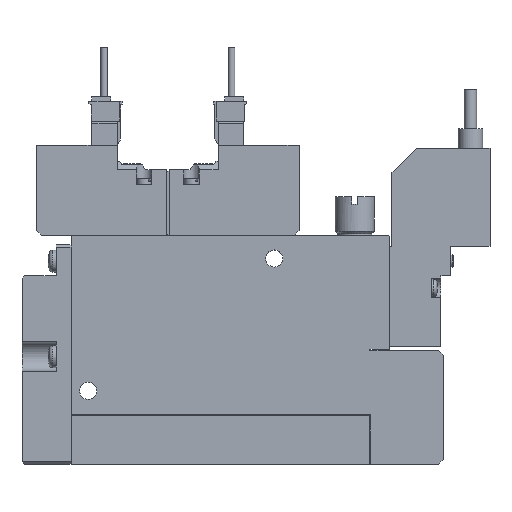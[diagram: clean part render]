
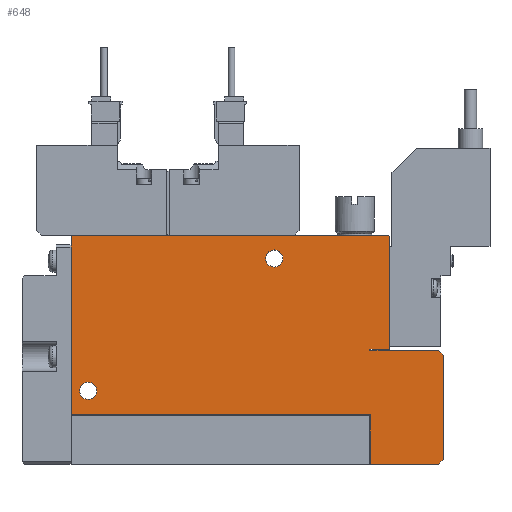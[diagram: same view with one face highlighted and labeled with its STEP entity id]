
A CAD part, top view. The second image highlights one B-rep face of the part: STEP entity #648.
In plain terms, the highlighted planar face has unit normal (0, 0, 1).
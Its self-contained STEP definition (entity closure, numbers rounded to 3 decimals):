
#648=ADVANCED_FACE('',(#1419,#1420,#1421),#1422,.F.);
#1419=FACE_OUTER_BOUND('',#2290,.T.);
#1420=FACE_BOUND('',#2291,.T.);
#1421=FACE_BOUND('',#2292,.T.);
#1422=PLANE('',#2293);
#2290=EDGE_LOOP('',(#5071,#5072,#5073,#5074,#5075,#5076,#5077,#5078,#5079,#5080,#5081,#5082,#5083,#5084));
#2291=EDGE_LOOP('',(#5085));
#2292=EDGE_LOOP('',(#5086));
#2293=AXIS2_PLACEMENT_3D('',#5087,#5088,#5089);
#5071=ORIENTED_EDGE('',*,*,#6481,.T.);
#5072=ORIENTED_EDGE('',*,*,#6510,.F.);
#5073=ORIENTED_EDGE('',*,*,#6511,.F.);
#5074=ORIENTED_EDGE('',*,*,#6494,.T.);
#5075=ORIENTED_EDGE('',*,*,#6512,.T.);
#5076=ORIENTED_EDGE('',*,*,#6506,.T.);
#5077=ORIENTED_EDGE('',*,*,#6500,.T.);
#5078=ORIENTED_EDGE('',*,*,#6513,.T.);
#5079=ORIENTED_EDGE('',*,*,#6484,.T.);
#5080=ORIENTED_EDGE('',*,*,#6514,.T.);
#5081=ORIENTED_EDGE('',*,*,#6488,.T.);
#5082=ORIENTED_EDGE('',*,*,#6515,.T.);
#5083=ORIENTED_EDGE('',*,*,#6469,.T.);
#5084=ORIENTED_EDGE('',*,*,#6478,.T.);
#5085=ORIENTED_EDGE('',*,*,#6516,.F.);
#5086=ORIENTED_EDGE('',*,*,#6517,.F.);
#5087=CARTESIAN_POINT('',(0.0,0.0,5.0));
#5088=DIRECTION('',(0.0,0.0,-1.0));
#5089=DIRECTION('',(0.0,-1.0,0.0));
#6469=EDGE_CURVE('',#8029,#8027,#8030,.T.);
#6478=EDGE_CURVE('',#8027,#8040,#8042,.T.);
#6481=EDGE_CURVE('',#8040,#8045,#8047,.T.);
#6484=EDGE_CURVE('',#8053,#8051,#8054,.T.);
#6488=EDGE_CURVE('',#8061,#8059,#8062,.T.);
#6494=EDGE_CURVE('',#8066,#8070,#8072,.T.);
#6500=EDGE_CURVE('',#8083,#8081,#8084,.T.);
#6506=EDGE_CURVE('',#8093,#8083,#8094,.T.);
#6510=EDGE_CURVE('',#8100,#8045,#8101,.T.);
#6511=EDGE_CURVE('',#8066,#8100,#8102,.T.);
#6512=EDGE_CURVE('',#8070,#8093,#8103,.T.);
#6513=EDGE_CURVE('',#8081,#8053,#8104,.T.);
#6514=EDGE_CURVE('',#8051,#8061,#8105,.T.);
#6515=EDGE_CURVE('',#8059,#8029,#8106,.T.);
#6516=EDGE_CURVE('',#8107,#8107,#8108,.T.);
#6517=EDGE_CURVE('',#8109,#8109,#8110,.T.);
#8027=VERTEX_POINT('',#10577);
#8029=VERTEX_POINT('',#10580);
#8030=LINE('',#10581,#10582);
#8040=VERTEX_POINT('',#10598);
#8042=LINE('',#10601,#10602);
#8045=VERTEX_POINT('',#10606);
#8047=LINE('',#10609,#10610);
#8051=VERTEX_POINT('',#10615);
#8053=VERTEX_POINT('',#10618);
#8054=LINE('',#10619,#10620);
#8059=VERTEX_POINT('',#10627);
#8061=VERTEX_POINT('',#10630);
#8062=LINE('',#10631,#10632);
#8066=VERTEX_POINT('',#10638);
#8070=VERTEX_POINT('',#10644);
#8072=LINE('',#10647,#10648);
#8081=VERTEX_POINT('',#10660);
#8083=VERTEX_POINT('',#10663);
#8084=LINE('',#10664,#10665);
#8093=VERTEX_POINT('',#10678);
#8094=LINE('',#10679,#10680);
#8100=VERTEX_POINT('',#10687);
#8101=LINE('',#10688,#10689);
#8102=LINE('',#10690,#10691);
#8103=LINE('',#10692,#10693);
#8104=LINE('',#10694,#10695);
#8105=LINE('',#10696,#10697);
#8106=LINE('',#10698,#10699);
#8107=VERTEX_POINT('',#10700);
#8108=CIRCLE('',#10701,1.75);
#8109=VERTEX_POINT('',#10702);
#8110=CIRCLE('',#10703,1.75);
#10577=CARTESIAN_POINT('',(0.2,46.6,5.0));
#10580=CARTESIAN_POINT('',(64.8,46.6,5.0));
#10581=CARTESIAN_POINT('',(64.8,46.6,5.0));
#10582=VECTOR('',#12152,1.0);
#10598=CARTESIAN_POINT('',(0.0,46.4,5.0));
#10601=CARTESIAN_POINT('',(0.2,46.6,5.0));
#10602=VECTOR('',#12163,1.0);
#10606=CARTESIAN_POINT('',(0.0,10.1,5.0));
#10609=CARTESIAN_POINT('',(0.0,46.4,5.0));
#10610=VECTOR('',#12166,1.0);
#10615=CARTESIAN_POINT('',(61.0,23.5,5.0));
#10618=CARTESIAN_POINT('',(61.0,23.25,5.0));
#10619=CARTESIAN_POINT('',(61.0,23.25,5.0));
#10620=VECTOR('',#12169,1.0);
#10627=CARTESIAN_POINT('',(65.0,46.4,5.0));
#10630=CARTESIAN_POINT('',(65.0,23.5,5.0));
#10631=CARTESIAN_POINT('',(65.0,23.5,5.0));
#10632=VECTOR('',#12173,1.0);
#10638=CARTESIAN_POINT('',(61.1,0.0,5.0));
#10644=CARTESIAN_POINT('',(75.0,0.0,5.0));
#10647=CARTESIAN_POINT('',(0.0,0.0,5.0));
#10648=VECTOR('',#12179,1.0);
#10660=CARTESIAN_POINT('',(75.0,23.25,5.0));
#10663=CARTESIAN_POINT('',(76.0,22.25,5.0));
#10664=CARTESIAN_POINT('',(76.0,22.25,5.0));
#10665=VECTOR('',#12187,1.0);
#10678=CARTESIAN_POINT('',(76.0,1.0,5.0));
#10679=CARTESIAN_POINT('',(76.0,1.0,5.0));
#10680=VECTOR('',#12195,1.0);
#10687=CARTESIAN_POINT('',(61.1,10.1,5.0));
#10688=CARTESIAN_POINT('',(61.1,10.1,5.0));
#10689=VECTOR('',#12203,1.0);
#10690=CARTESIAN_POINT('',(61.1,0.0,5.0));
#10691=VECTOR('',#12204,1.0);
#10692=CARTESIAN_POINT('',(75.0,0.0,5.0));
#10693=VECTOR('',#12205,1.0);
#10694=CARTESIAN_POINT('',(75.0,23.25,5.0));
#10695=VECTOR('',#12206,1.0);
#10696=CARTESIAN_POINT('',(61.0,23.5,5.0));
#10697=VECTOR('',#12207,1.0);
#10698=CARTESIAN_POINT('',(65.0,46.4,5.0));
#10699=VECTOR('',#12208,1.0);
#10700=CARTESIAN_POINT('',(5.25,15.0,5.0));
#10701=AXIS2_PLACEMENT_3D('',#12209,#12210,#12211);
#10702=CARTESIAN_POINT('',(43.25,42.0,5.0));
#10703=AXIS2_PLACEMENT_3D('',#12212,#12213,#12214);
#12152=DIRECTION('',(-1.0,0.0,0.0));
#12163=DIRECTION('',(-0.707,-0.707,0.0));
#12166=DIRECTION('',(0.0,-1.0,0.0));
#12169=DIRECTION('',(0.0,1.0,0.0));
#12173=DIRECTION('',(0.0,1.0,0.0));
#12179=DIRECTION('',(1.0,0.0,0.0));
#12187=DIRECTION('',(-0.707,0.707,0.0));
#12195=DIRECTION('',(0.0,1.0,0.0));
#12203=DIRECTION('',(-1.0,0.0,0.0));
#12204=DIRECTION('',(0.0,1.0,0.0));
#12205=DIRECTION('',(0.707,0.707,0.0));
#12206=DIRECTION('',(-1.0,0.0,0.0));
#12207=DIRECTION('',(1.0,0.,0.0));
#12208=DIRECTION('',(-0.707,0.707,0.0));
#12209=CARTESIAN_POINT('',(3.5,15.0,5.0));
#12210=DIRECTION('',(0.0,0.0,1.0));
#12211=DIRECTION('',(1.0,0.0,0.0));
#12212=CARTESIAN_POINT('',(41.5,42.0,5.0));
#12213=DIRECTION('',(0.0,0.0,1.0));
#12214=DIRECTION('',(1.0,0.0,0.0));
